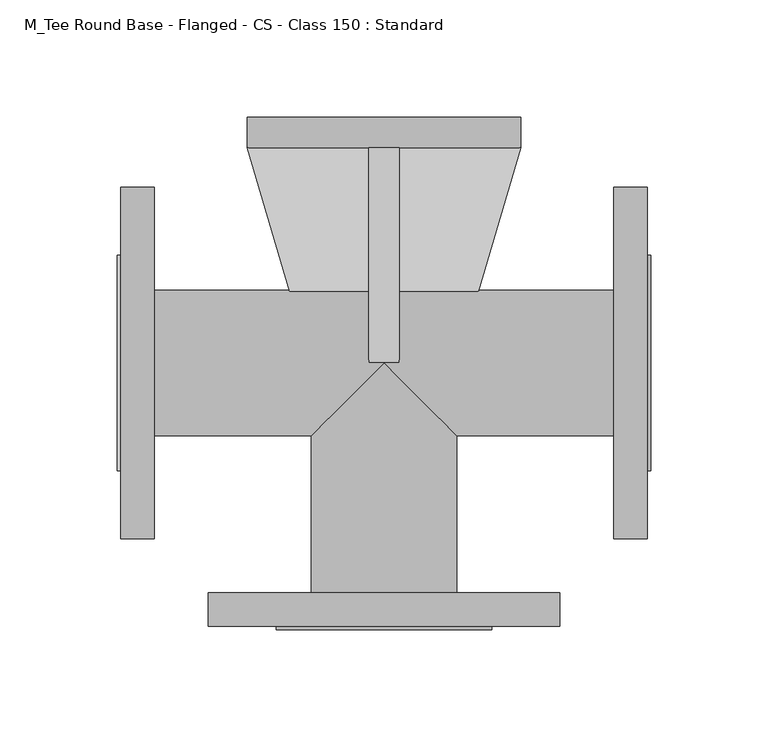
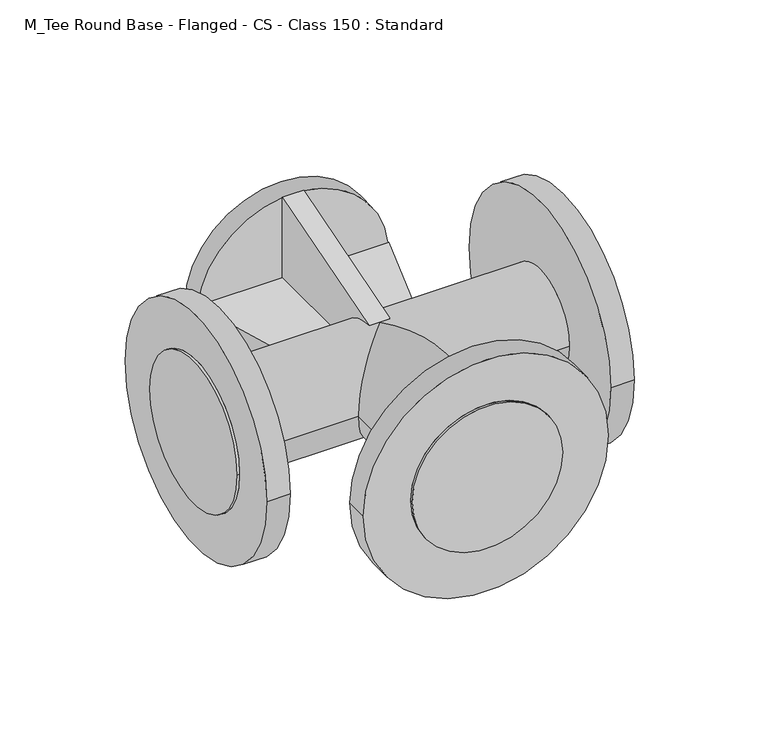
"""IFC4 building model written with IfcOpenShell, lengths in millimetres: pipe fitting geometry, M_Tee Round Base - Flanged - CS - Class 150 : Standard."""

from ifc_helpers import new_model, si_unit, frame, origin, place, context, project, spatial, circle_curve, ellipse_curve, source, transform, mapped, element, save
from ifc_brep_helpers import plane_surface, cylinder_surface, advanced_brep


def m_tee_round_base_flanged_cs_class_150_standard_dd767e04(model_context):
    return source(origin(), model_context, "Body", "AdvancedBrep", [
        advanced_brep(
        [(98.1125, -31.1, 0.0), (98.1125, 31.1, 0.0), (40.3623913, 31.1, 0.0), (40.157831, 30.413155, 6.5), (6.5, 30.413155, 6.5), (6.5, 0.0, 31.1), (0.0, 0.0, 31.1), (31.1, -31.1, 0.0), (0.0, 0.0, -31.1), (6.5, 0.0, -31.1), (6.5, 30.413155, -6.5), (40.157831, 30.413155, -6.5), (-98.1125, 31.1, 0.0), (-98.1125, -31.1, 0.0), (-31.1, -31.1, 0.0), (-6.5, 0.0, 31.1), (-6.5, 30.413155, 6.5), (-40.157831, 30.413155, 6.5), (-40.3623913, 31.1, 0.0), (-40.157831, 30.413155, -6.5), (-6.5, 30.413155, -6.5), (-6.5, 0.0, -31.1), (-112.4125, -75.0, 0.0), (-112.4125, 75.0, 0.0), (-112.4125, 46.05, 0.0), (-112.4125, -46.05, 0.0), (-98.1125, -75.0, 0.0), (-98.1125, 75.0, 0.0), (98.1125, -75.0, 0.0), (98.1125, 75.0, 0.0), (112.4125, -75.0, 0.0), (112.4125, 75.0, 0.0), (112.4125, -46.05, 0.0), (112.4125, 46.05, 0.0), (-114.0, 46.05, 0.0), (-114.0, -46.05, 0.0), (114.0, -46.05, 0.0), (114.0, 46.05, 0.0), (31.1, -98.1125, 0.0), (-31.1, -98.1125, 0.0), (-75.0, -98.1125, 0.0), (75.0, -98.1125, 0.0), (-75.0, -112.4125, 0.0), (75.0, -112.4125, 0.0), (-46.05, -112.4125, 0.0), (46.05, -112.4125, 0.0), (-46.05, -114.0, 0.0), (46.05, -114.0, 0.0), (-58.5, 92.0, 6.5), (-6.5, 92.0, 6.5), (-58.1377674, 92.0, 6.5), (58.5, 92.0, 6.5), (58.1377674, 92.0, 6.5), (6.5, 92.0, 6.5), (58.5, 92.0, -6.5), (6.5, 92.0, -6.5), (58.1377674, 92.0, -6.5), (-58.5, 92.0, -6.5), (-58.1377674, 92.0, -6.5), (-6.5, 92.0, -6.5), (-58.5, 92.0, 0.0), (58.5, 92.0, 0.0), (6.5, 92.0, -58.5), (0.0, 92.0, -58.5), (6.5, 92.0, -58.1377674), (-6.5, 92.0, -58.5), (-6.5, 92.0, -58.1377674), (6.5, 92.0, 58.5), (6.5, 92.0, 58.1377674), (0.0, 92.0, 58.5), (-6.5, 92.0, 58.1377674), (-6.5, 92.0, 58.5), (-58.5, 105.0, 0.0), (58.5, 105.0, 0.0)],
        [
            (0, 1, circle_curve(frame((98.1125, 0.0, 0.0), z_axis=(-1.0, 0.0, 0.0), x_axis=(0.0, 1.0, 0.0)), 31.1)),
            (1, 2),
            (2, 3, ellipse_curve(frame((31.1, 0.0, 0.0), z_axis=(0.9583978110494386, -0.28543586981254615, 0.0), x_axis=(-0.2854358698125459, -0.9583978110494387, 0.0)), 32.4499906, 31.1)),
            (3, 4),
            (4, 5, circle_curve(frame((6.5, 0.0, 0.0), z_axis=(1.0, 0.0, 0.0), x_axis=(0.0, 1.0, 0.0)), 31.1)),
            (5, 6),
            (6, 7, ellipse_curve(frame((0.0, 0.0, 0.0), z_axis=(0.7071067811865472, 0.7071067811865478, 0.0), x_axis=(-0.7071067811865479, 0.7071067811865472, 0.0)), 43.9820418, 31.1)),
            (7, 0),
            (1, 0, circle_curve(frame((98.1125, 0.0, 0.0), z_axis=(-1.0, 0.0, 0.0), x_axis=(0.0, 1.0, 0.0)), 31.1)),
            (7, 8, ellipse_curve(frame((0.0, 0.0, 0.0), z_axis=(0.7071067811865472, 0.7071067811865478, 0.0), x_axis=(-0.7071067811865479, 0.7071067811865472, 0.0)), 43.9820418, 31.1)),
            (8, 9),
            (9, 10, circle_curve(frame((6.5, 0.0, 0.0), z_axis=(1.0, 0.0, 0.0), x_axis=(0.0, 1.0, 0.0)), 31.1)),
            (10, 11),
            (11, 2, ellipse_curve(frame((31.1, 0.0, 0.0), z_axis=(0.9583978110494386, -0.28543586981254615, 0.0), x_axis=(-0.2854358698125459, -0.9583978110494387, 0.0)), 32.4499906, 31.1)),
            (12, 13, circle_curve(frame((-98.1125, 0.0, 0.0), z_axis=(1.0, 0.0, 0.0), x_axis=(0.0, 1.0, 0.0)), 31.1)),
            (13, 14),
            (14, 6, ellipse_curve(frame((0.0, 0.0, 0.0), z_axis=(-0.7071067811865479, 0.7071067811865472, 0.0), x_axis=(-0.707106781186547, -0.7071067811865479, 0.0)), 43.9820418, 31.1)),
            (6, 15),
            (15, 16, circle_curve(frame((-6.5, 0.0, 0.0), z_axis=(-1.0, 0.0, 0.0), x_axis=(0.0, 1.0, 0.0)), 31.1)),
            (16, 17),
            (17, 18, ellipse_curve(frame((-31.1, 0.0, 0.0), z_axis=(-0.9583978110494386, -0.28543586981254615, 0.0), x_axis=(-0.2854358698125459, 0.9583978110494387, 0.0)), 32.4499906, 31.1)),
            (18, 12),
            (13, 12, circle_curve(frame((-98.1125, 0.0, 0.0), z_axis=(1.0, 0.0, 0.0), x_axis=(0.0, 1.0, 0.0)), 31.1)),
            (18, 19, ellipse_curve(frame((-31.1, 0.0, 0.0), z_axis=(-0.9583978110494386, -0.28543586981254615, 0.0), x_axis=(-0.2854358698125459, 0.9583978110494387, 0.0)), 32.4499906, 31.1)),
            (19, 20),
            (20, 21, circle_curve(frame((-6.5, 0.0, 0.0), z_axis=(-1.0, 0.0, 0.0), x_axis=(0.0, 1.0, 0.0)), 31.1)),
            (21, 8),
            (8, 14, ellipse_curve(frame((0.0, 0.0, 0.0), z_axis=(-0.7071067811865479, 0.7071067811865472, 0.0), x_axis=(-0.707106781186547, -0.7071067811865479, 0.0)), 43.9820418, 31.1)),
            (22, 23, circle_curve(frame((-112.4125, 0.0, 0.0), z_axis=(-1.0, 0.0, 0.0), x_axis=(0.0, 1.0, 0.0)), 75.0)),
            (23, 22, circle_curve(frame((-112.4125, 0.0, 0.0), z_axis=(-1.0, 0.0, 0.0), x_axis=(0.0, 1.0, 0.0)), 75.0)),
            (24, 25, circle_curve(frame((-112.4125, 0.0, 0.0), z_axis=(1.0, 0.0, 0.0), x_axis=(0.0, -1.0, 0.0)), 46.05)),
            (25, 24, circle_curve(frame((-112.4125, 0.0, 0.0), z_axis=(1.0, 0.0, 0.0), x_axis=(0.0, -1.0, 0.0)), 46.05)),
            (26, 27, circle_curve(frame((-98.1125, 0.0, 0.0), z_axis=(1.0, 0.0, 0.0), x_axis=(0.0, 1.0, 0.0)), 75.0)),
            (27, 26, circle_curve(frame((-98.1125, 0.0, 0.0), z_axis=(1.0, 0.0, 0.0), x_axis=(0.0, 1.0, 0.0)), 75.0)),
            (22, 26),
            (27, 23),
            (28, 29, circle_curve(frame((98.1125, 0.0, 0.0), z_axis=(-1.0, 0.0, 0.0), x_axis=(0.0, 1.0, 0.0)), 75.0)),
            (29, 28, circle_curve(frame((98.1125, 0.0, 0.0), z_axis=(-1.0, 0.0, 0.0), x_axis=(0.0, 1.0, 0.0)), 75.0)),
            (30, 31, circle_curve(frame((112.4125, 0.0, 0.0), z_axis=(1.0, 0.0, 0.0), x_axis=(0.0, 1.0, 0.0)), 75.0)),
            (31, 30, circle_curve(frame((112.4125, 0.0, 0.0), z_axis=(1.0, 0.0, 0.0), x_axis=(0.0, 1.0, 0.0)), 75.0)),
            (32, 33, circle_curve(frame((112.4125, 0.0, 0.0), z_axis=(-1.0, 0.0, 0.0), x_axis=(0.0, 1.0, 0.0)), 46.05)),
            (33, 32, circle_curve(frame((112.4125, 0.0, 0.0), z_axis=(-1.0, 0.0, 0.0), x_axis=(0.0, 1.0, 0.0)), 46.05)),
            (28, 30),
            (31, 29),
            (34, 35, circle_curve(frame((-114.0, 0.0, 0.0), z_axis=(-1.0, 0.0, 0.0), x_axis=(0.0, -1.0, 0.0)), 46.05)),
            (35, 34, circle_curve(frame((-114.0, 0.0, 0.0), z_axis=(-1.0, 0.0, 0.0), x_axis=(0.0, -1.0, 0.0)), 46.05)),
            (35, 25),
            (24, 34),
            (36, 37, circle_curve(frame((114.0, 0.0, 0.0), z_axis=(1.0, 0.0, 0.0), x_axis=(0.0, 1.0, 0.0)), 46.05)),
            (37, 36, circle_curve(frame((114.0, 0.0, 0.0), z_axis=(1.0, 0.0, 0.0), x_axis=(0.0, 1.0, 0.0)), 46.05)),
            (37, 33),
            (32, 36),
            (38, 7),
            (14, 39),
            (39, 38, circle_curve(frame((0.0, -98.1125, 0.0), z_axis=(0.0, 1.0, 0.0), x_axis=(1.0, 0.0, 0.0)), 31.1)),
            (38, 39, circle_curve(frame((0.0, -98.1125, 0.0), z_axis=(0.0, 1.0, 0.0), x_axis=(1.0, 0.0, 0.0)), 31.1)),
            (40, 41, circle_curve(frame((0.0, -98.1125, 0.0), z_axis=(0.0, 1.0, 0.0), x_axis=(1.0, 0.0, 0.0)), 75.0)),
            (41, 40, circle_curve(frame((0.0, -98.1125, 0.0), z_axis=(0.0, 1.0, 0.0), x_axis=(1.0, 0.0, 0.0)), 75.0)),
            (42, 43, circle_curve(frame((0.0, -112.4125, 0.0), z_axis=(0.0, -1.0, 0.0), x_axis=(1.0, 0.0, 0.0)), 75.0)),
            (43, 42, circle_curve(frame((0.0, -112.4125, 0.0), z_axis=(0.0, -1.0, 0.0), x_axis=(1.0, 0.0, 0.0)), 75.0)),
            (44, 45, circle_curve(frame((0.0, -112.4125, 0.0), z_axis=(0.0, 1.0, 0.0), x_axis=(1.0, 0.0, 0.0)), 46.05)),
            (45, 44, circle_curve(frame((0.0, -112.4125, 0.0), z_axis=(0.0, 1.0, 0.0), x_axis=(1.0, 0.0, 0.0)), 46.05)),
            (40, 42),
            (43, 41),
            (46, 47, circle_curve(frame((0.0, -114.0, 0.0), z_axis=(0.0, -1.0, 0.0), x_axis=(1.0, 0.0, 0.0)), 46.05)),
            (47, 46, circle_curve(frame((0.0, -114.0, 0.0), z_axis=(0.0, -1.0, 0.0), x_axis=(1.0, 0.0, 0.0)), 46.05)),
            (47, 45),
            (44, 46),
            (48, 17),
            (16, 49),
            (49, 50),
            (50, 48),
            (3, 51),
            (51, 52),
            (52, 53),
            (53, 4),
            (54, 11),
            (10, 55),
            (55, 56),
            (56, 54),
            (19, 57),
            (57, 58),
            (58, 59),
            (59, 20),
            (50, 60, circle_curve(frame((0.0, 92.0, 0.0), z_axis=(0.0, -1.0, 0.0), x_axis=(1.0, 0.0, 0.0)), 58.5)),
            (60, 48),
            (51, 61),
            (61, 52, circle_curve(frame((0.0, 92.0, 0.0), z_axis=(0.0, -1.0, 0.0), x_axis=(1.0, 0.0, 0.0)), 58.5)),
            (56, 61, circle_curve(frame((0.0, 92.0, 0.0), z_axis=(0.0, -1.0, 0.0), x_axis=(1.0, 0.0, 0.0)), 58.5)),
            (61, 54),
            (57, 60),
            (60, 58, circle_curve(frame((0.0, 92.0, 0.0), z_axis=(0.0, -1.0, 0.0), x_axis=(1.0, 0.0, 0.0)), 58.5)),
            (62, 63),
            (63, 64, circle_curve(frame((0.0, 92.0, 0.0), z_axis=(0.0, -1.0, 0.0), x_axis=(1.0, 0.0, 0.0)), 58.5)),
            (64, 62),
            (63, 65),
            (65, 66),
            (66, 63, circle_curve(frame((0.0, 92.0, 0.0), z_axis=(0.0, -1.0, 0.0), x_axis=(1.0, 0.0, 0.0)), 58.5)),
            (67, 68),
            (68, 69, circle_curve(frame((0.0, 92.0, 0.0), z_axis=(0.0, -1.0, 0.0), x_axis=(1.0, 0.0, 0.0)), 58.5)),
            (69, 67),
            (70, 71),
            (71, 69),
            (69, 70, circle_curve(frame((0.0, 92.0, 0.0), z_axis=(0.0, -1.0, 0.0), x_axis=(1.0, 0.0, 0.0)), 58.5)),
            (67, 5),
            (53, 68),
            (9, 62),
            (64, 55),
            (65, 21),
            (59, 66),
            (15, 71),
            (70, 49),
            (72, 73, circle_curve(frame((0.0, 105.0, 0.0), z_axis=(0.0, 1.0, 0.0), x_axis=(1.0, 0.0, 0.0)), 58.5)),
            (73, 72, circle_curve(frame((0.0, 105.0, 0.0), z_axis=(0.0, 1.0, 0.0), x_axis=(1.0, 0.0, 0.0)), 58.5)),
            (52, 68, circle_curve(frame((0.0, 92.0, 0.0), z_axis=(0.0, -1.0, 0.0), x_axis=(1.0, 0.0, 0.0)), 58.5)),
            (64, 56, circle_curve(frame((0.0, 92.0, 0.0), z_axis=(0.0, -1.0, 0.0), x_axis=(1.0, 0.0, 0.0)), 58.5)),
            (58, 66, circle_curve(frame((0.0, 92.0, 0.0), z_axis=(0.0, -1.0, 0.0), x_axis=(1.0, 0.0, 0.0)), 58.5)),
            (70, 50, circle_curve(frame((0.0, 92.0, 0.0), z_axis=(0.0, -1.0, 0.0), x_axis=(1.0, 0.0, 0.0)), 58.5)),
            (72, 60),
            (61, 73),
        ],
        [
            cylinder_surface(frame((0.0, 0.0, 0.0), z_axis=(-1.0, 0.0, 0.0), x_axis=(0.0, 1.0, 0.0)), 31.1),
            cylinder_surface(frame((-98.1125, 0.0, 0.0), z_axis=(-1.0, 0.0, 0.0), x_axis=(0.0, 1.0, 0.0)), 31.1),
            plane_surface(frame((-112.4125, 0.0, 0.0), z_axis=(-1.0, 0.0, 0.0), x_axis=(0.0, 0.0, 1.0))),
            plane_surface(frame((-98.1125, 0.0, 0.0), z_axis=(1.0, 0.0, 0.0), x_axis=(0.0, 0.0, 1.0))),
            cylinder_surface(frame((-112.4125, 0.0, 0.0), z_axis=(-1.0, 0.0, 0.0), x_axis=(0.0, 1.0, 0.0)), 75.0),
            plane_surface(frame((98.1125, 0.0, 0.0), z_axis=(-1.0, 0.0, 0.0), x_axis=(0.0, 0.0, 1.0))),
            plane_surface(frame((112.4125, 0.0, 0.0), z_axis=(1.0, 0.0, 0.0), x_axis=(0.0, 0.0, 1.0))),
            cylinder_surface(frame((98.1125, 0.0, 0.0), z_axis=(-1.0, 0.0, 0.0), x_axis=(0.0, 1.0, 0.0)), 75.0),
            plane_surface(frame((-114.0, 0.0, 0.0), z_axis=(-1.0, 0.0, 0.0), x_axis=(0.0, 0.0, 1.0))),
            cylinder_surface(frame((-112.4125, 0.0, 0.0), z_axis=(1.0, 0.0, 0.0), x_axis=(0.0, -1.0, 0.0)), 46.05),
            plane_surface(frame((114.0, 0.0, 0.0), z_axis=(1.0, 0.0, 0.0), x_axis=(0.0, 0.0, 1.0))),
            cylinder_surface(frame((112.4125, 0.0, 0.0), z_axis=(-1.0, 0.0, 0.0), x_axis=(0.0, 1.0, 0.0)), 46.05),
            cylinder_surface(frame((0.0, 0.0, 0.0), z_axis=(0.0, 1.0, 0.0), x_axis=(1.0, 0.0, 0.0)), 31.1),
            plane_surface(frame((0.0, -98.1125, 0.0), z_axis=(0.0, 1.0, 0.0), x_axis=(0.0, 0.0, 1.0))),
            plane_surface(frame((0.0, -112.4125, 0.0), z_axis=(0.0, -1.0, 0.0), x_axis=(0.0, 0.0, 1.0))),
            cylinder_surface(frame((0.0, -98.1125, 0.0), z_axis=(0.0, 1.0, 0.0), x_axis=(1.0, 0.0, 0.0)), 75.0),
            plane_surface(frame((0.0, -114.0, 0.0), z_axis=(0.0, -1.0, 0.0), x_axis=(0.0, 0.0, 1.0))),
            cylinder_surface(frame((0.0, -112.4125, 0.0), z_axis=(0.0, 1.0, 0.0), x_axis=(1.0, 0.0, 0.0)), 46.05),
            plane_surface(frame((-58.5, 92.0, 6.5), z_axis=(0.0, 0.0, 1.0), x_axis=(-1.0, 0.0, 0.0))),
            plane_surface(frame((-58.5, 92.0, -6.5), z_axis=(0.0, 0.0, -1.0), x_axis=(1.0, 0.0, 0.0))),
            plane_surface(frame((58.5, 92.0, 6.5), z_axis=(0.0, 1.0, 0.0), x_axis=(0.0, 0.0, -1.0))),
            plane_surface(frame((-58.5, 92.0, 6.5), z_axis=(-0.9583978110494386, -0.28543586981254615, 0.0), x_axis=(0.0, 0.0, -1.0))),
            plane_surface(frame((31.1, 0.0, 6.5), z_axis=(0.9583978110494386, -0.28543586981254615, 0.0), x_axis=(0.0, 0.0, -1.0))),
            plane_surface(frame((6.5, 92.0, 58.5), z_axis=(1.0, 0.0, 0.0), x_axis=(0.0, 0.0, 1.0))),
            plane_surface(frame((-6.5, 92.0, 58.5), z_axis=(-1.0, 0.0, 0.0), x_axis=(0.0, 0.0, -1.0))),
            plane_surface(frame((6.5, 92.0, 58.5), z_axis=(0.0, -0.2854358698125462, 0.9583978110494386), x_axis=(-1.0, 0.0, 0.0))),
            plane_surface(frame((6.5, 0.0, -31.1), z_axis=(0.0, -0.28543586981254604, -0.9583978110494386), x_axis=(-1.0, 0.0, 0.0))),
            plane_surface(frame((0.0, 105.0, 0.0), z_axis=(0.0, 1.0, 0.0), x_axis=(0.0, 0.0, 1.0))),
            plane_surface(frame((0.0, 92.0, 0.0), z_axis=(0.0, -1.0, 0.0), x_axis=(0.0, 0.0, 1.0))),
            cylinder_surface(frame((0.0, 105.0, 0.0), z_axis=(0.0, 1.0, 0.0), x_axis=(1.0, 0.0, 0.0)), 58.5),
        ],
        [
            (0, [[1, 2, 3, 4, 5, 6, 7, 8]]),
            (0, [[9, -8, 10, 11, 12, 13, 14, -2]]),
            (1, [[15, 16, 17, 18, 19, 20, 21, 22]]),
            (1, [[23, -22, 24, 25, 26, 27, 28, -16]]),
            (2, [[29, 30], [31, 32]]),
            (3, [[33, 34], [-15, -23]]),
            (4, [[-29, 35, -34, 36]]),
            (4, [[-30, -36, -33, -35]]),
            (5, [[37, 38], [-1, -9]]),
            (6, [[39, 40], [41, 42]]),
            (7, [[-37, 43, -40, 44]]),
            (7, [[-38, -44, -39, -43]]),
            (8, [[45, 46]]),
            (9, [[-46, 47, -31, 48]]),
            (9, [[-45, -48, -32, -47]]),
            (10, [[49, 50]]),
            (11, [[-50, 51, -41, 52]]),
            (11, [[-49, -52, -42, -51]]),
            (12, [[53, -7, -17, 54, 55]]),
            (12, [[-53, 56, -54, -28, -10]]),
            (13, [[57, 58], [-55, -56]]),
            (14, [[59, 60], [61, 62]]),
            (15, [[-57, 63, -60, 64]]),
            (15, [[-58, -64, -59, -63]]),
            (16, [[65, 66]]),
            (17, [[-66, 67, -61, 68]]),
            (17, [[-65, -68, -62, -67]]),
            (18, [[69, -20, 70, 71, 72]]),
            (18, [[73, 74, 75, 76, -4]]),
            (19, [[77, -13, 78, 79, 80]]),
            (19, [[81, 82, 83, 84, -25]]),
            (20, [[-72, 85, 86]]),
            (20, [[-74, 87, 88]]),
            (20, [[-80, 89, 90]]),
            (20, [[-82, 91, 92]]),
            (20, [[93, 94, 95]]),
            (20, [[96, 97, 98]]),
            (20, [[99, 100, 101]]),
            (20, [[102, 103, 104]]),
            (21, [[-69, -86, -91, -81, -24, -21]]),
            (22, [[-73, -3, -14, -77, -90, -87]]),
            (23, [[105, -5, -76, 106, -99]]),
            (23, [[107, -95, 108, -78, -12]]),
            (24, [[109, -26, -84, 110, -97]]),
            (24, [[111, -102, 112, -70, -19]]),
            (25, [[-105, -101, -103, -111, -18, -6]]),
            (26, [[-107, -11, -27, -109, -96, -93]]),
            (27, [[113, 114]]),
            (28, [[115, -106, -75]]),
            (28, [[116, -79, -108]]),
            (28, [[117, -110, -83]]),
            (28, [[118, -71, -112]]),
            (29, [[-113, 119, -85, -118, -104, -100, -115, -88, 120]]),
            (29, [[-114, -120, -89, -116, -94, -98, -117, -92, -119]]),
        ],
    ),
    ])


if __name__ == "__main__":
    model = new_model("IFC4")
    model_context = context("Model", 3, world=origin())
    ifc_project = project(units=[si_unit("LENGTHUNIT", "METRE", prefix="MILLI")], contexts=[model_context])
    site = spatial("IfcSite", under=ifc_project)
    building = spatial("IfcBuilding", under=site)
    placement = place(None, origin())
    m_tee_round_base_flanged_cs_class_150_standard_shape = m_tee_round_base_flanged_cs_class_150_standard_dd767e04(model_context)
    element("IfcPipeFitting", 1, ObjectType="M_Tee Round Base - Flanged - CS - Class 150 : Standard", at=placement, inside=building, context=model_context, shape_type="MappedRepresentation", body=[
        mapped(m_tee_round_base_flanged_cs_class_150_standard_shape, transform((0.0, 0.0, 0.0), x_axis=(1.0, 0.0, 0.0), y_axis=(0.0, 1.0, 0.0), z_axis=(0.0, 0.0, 1.0))),
    ])
    save(model, "model.ifc")
